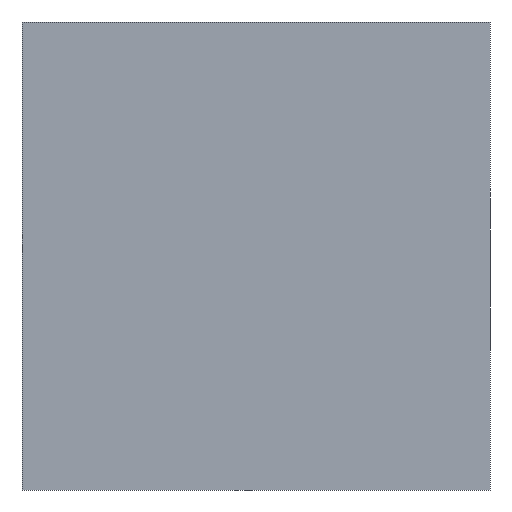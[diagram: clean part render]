
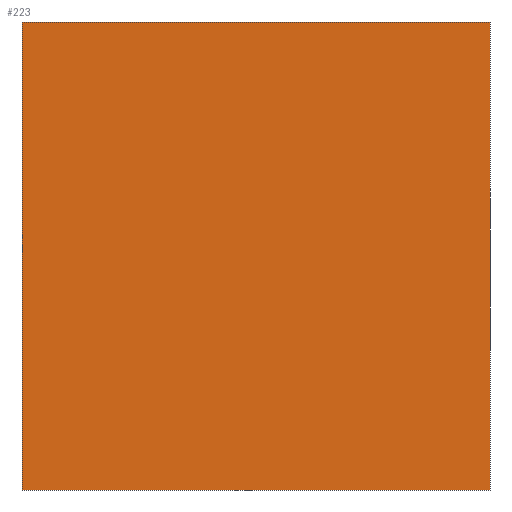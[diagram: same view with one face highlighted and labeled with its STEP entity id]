
A CAD part, front view. The second image highlights one B-rep face of the part: STEP entity #223.
In plain terms, the highlighted planar face has unit normal (0, -1, 0).
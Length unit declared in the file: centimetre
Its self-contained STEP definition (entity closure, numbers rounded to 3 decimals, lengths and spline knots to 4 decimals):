
#10 = ORIENTED_EDGE ( 'NONE', *, *, #143, .T. ) ;
#11 = VERTEX_POINT ( 'NONE', #210 ) ;
#23 = DIRECTION ( 'NONE',  ( 1., 0., 0. ) ) ;
#54 = AXIS2_PLACEMENT_3D ( 'NONE', #111, #347, #200 ) ;
#56 = CARTESIAN_POINT ( 'NONE',  ( 1000., 0., 1000. ) ) ;
#58 = DIRECTION ( 'NONE',  ( 0., 0., -1. ) ) ;
#60 = ORIENTED_EDGE ( 'NONE', *, *, #276, .F. ) ;
#98 = ORIENTED_EDGE ( 'NONE', *, *, #288, .F. ) ;
#111 = CARTESIAN_POINT ( 'NONE',  ( 0., 0., 1000. ) ) ;
#119 = DIRECTION ( 'NONE',  ( 0., 0., -1. ) ) ;
#140 = FACE_OUTER_BOUND ( 'NONE', #154, .T. ) ;
#143 = EDGE_CURVE ( 'NONE', #328, #11, #166, .T. ) ;
#144 = LINE ( 'NONE', #287, #171 ) ;
#149 = LINE ( 'NONE', #238, #376 ) ;
#154 = EDGE_LOOP ( 'NONE', ( #10, #98, #60, #332 ) ) ;
#166 = LINE ( 'NONE', #255, #304 ) ;
#171 = VECTOR ( 'NONE', #350, 100. ) ;
#174 = CARTESIAN_POINT ( 'NONE',  ( 0., 0., 0. ) ) ;
#182 = LINE ( 'NONE', #264, #235 ) ;
#200 = DIRECTION ( 'NONE',  ( 0., 0., 1. ) ) ;
#210 = CARTESIAN_POINT ( 'NONE',  ( 1000., 0., 0. ) ) ;
#223 = ADVANCED_FACE ( 'NONE', ( #140 ), #260, .F. ) ;
#235 = VECTOR ( 'NONE', #119, 100. ) ;
#238 = CARTESIAN_POINT ( 'NONE',  ( 1000., 0., 1000. ) ) ;
#251 = EDGE_CURVE ( 'NONE', #295, #328, #182, .T. ) ;
#255 = CARTESIAN_POINT ( 'NONE',  ( 0., 0., 0. ) ) ;
#260 = PLANE ( 'NONE',  #54 ) ;
#264 = CARTESIAN_POINT ( 'NONE',  ( 0., 0., 1000. ) ) ;
#272 = VERTEX_POINT ( 'NONE', #56 ) ;
#276 = EDGE_CURVE ( 'NONE', #295, #272, #144, .T. ) ;
#287 = CARTESIAN_POINT ( 'NONE',  ( 0., 0., 1000. ) ) ;
#288 = EDGE_CURVE ( 'NONE', #272, #11, #149, .T. ) ;
#295 = VERTEX_POINT ( 'NONE', #297 ) ;
#297 = CARTESIAN_POINT ( 'NONE',  ( 0., 0., 1000. ) ) ;
#304 = VECTOR ( 'NONE', #23, 100. ) ;
#328 = VERTEX_POINT ( 'NONE', #174 ) ;
#332 = ORIENTED_EDGE ( 'NONE', *, *, #251, .T. ) ;
#347 = DIRECTION ( 'NONE',  ( 0., 1., 0. ) ) ;
#350 = DIRECTION ( 'NONE',  ( 1., 0., 0. ) ) ;
#376 = VECTOR ( 'NONE', #58, 100. ) ;
